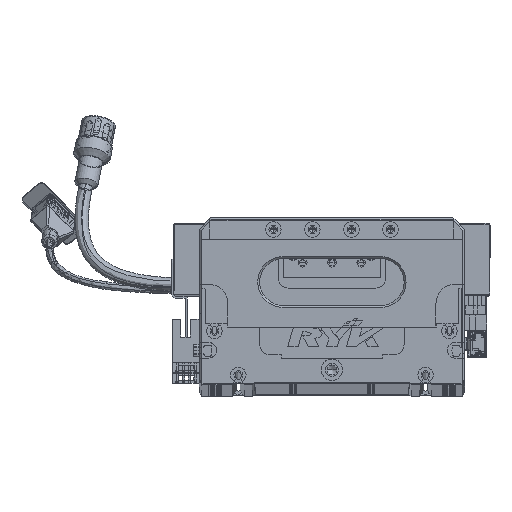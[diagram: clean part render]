
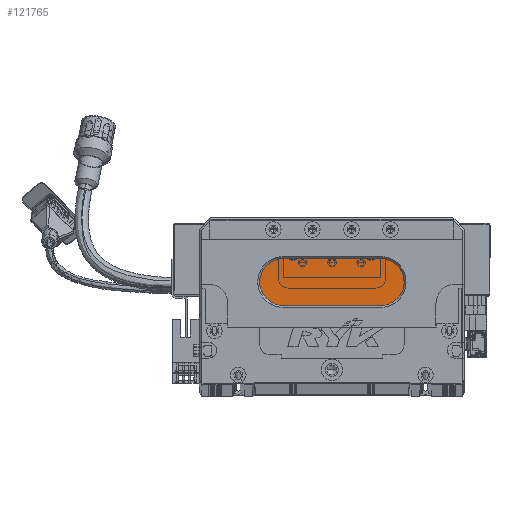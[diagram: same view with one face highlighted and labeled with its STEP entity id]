
A CAD part, top view. The second image highlights one B-rep face of the part: STEP entity #121765.
In plain terms, the highlighted planar face has unit normal (0, 0, 1) as drawn and (0, 0, -1) by its records, which use the part's own axes.
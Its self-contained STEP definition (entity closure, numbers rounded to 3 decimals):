
#5437 = EDGE_CURVE ( 'NONE', #48477, #143530, #41490, .T. ) ;
#10168 = DIRECTION ( 'NONE',  ( -1., 0., 0. ) ) ;
#12950 = DIRECTION ( 'NONE',  ( 1., 0., 0. ) ) ;
#15810 = CARTESIAN_POINT ( 'NONE',  ( 93., 40., 13. ) ) ;
#22997 = DIRECTION ( 'NONE',  ( 0., 0., -1. ) ) ;
#24775 = LINE ( 'NONE', #63449, #81772 ) ;
#26851 = EDGE_CURVE ( 'NONE', #97229, #68523, #83739, .T. ) ;
#31655 = CARTESIAN_POINT ( 'NONE',  ( 93., 64., 13. ) ) ;
#34295 = AXIS2_PLACEMENT_3D ( 'NONE', #94170, #44814, #142574 ) ;
#41490 = CIRCLE ( 'NONE', #103663, 12. ) ;
#44814 = DIRECTION ( 'NONE',  ( 0., 0., -1. ) ) ;
#48477 = VERTEX_POINT ( 'NONE', #31655 ) ;
#51455 = DIRECTION ( 'NONE',  ( -1., 0., 0. ) ) ;
#52300 = EDGE_CURVE ( 'NONE', #68523, #119751, #82109, .T. ) ;
#63449 = CARTESIAN_POINT ( 'NONE',  ( 93., 64., 13. ) ) ;
#66590 = PLANE ( 'NONE',  #34295 ) ;
#68523 = VERTEX_POINT ( 'NONE', #145863 ) ;
#71330 = CARTESIAN_POINT ( 'NONE',  ( 93., 52., 13. ) ) ;
#80284 = CARTESIAN_POINT ( 'NONE',  ( 43., 40., 13. ) ) ;
#81772 = VECTOR ( 'NONE', #12950, 1000. ) ;
#82109 = CIRCLE ( 'NONE', #110231, 12. ) ;
#83739 = CIRCLE ( 'NONE', #135658, 12. ) ;
#88230 = ORIENTED_EDGE ( 'NONE', *, *, #139439, .T. ) ;
#89066 = ORIENTED_EDGE ( 'NONE', *, *, #26851, .T. ) ;
#92179 = LINE ( 'NONE', #15810, #97823 ) ;
#94170 = CARTESIAN_POINT ( 'NONE',  ( 93., 52., 13. ) ) ;
#97229 = VERTEX_POINT ( 'NONE', #80284 ) ;
#97696 = FACE_OUTER_BOUND ( 'NONE', #129895, .T. ) ;
#97823 = VECTOR ( 'NONE', #138582, 1000. ) ;
#103663 = AXIS2_PLACEMENT_3D ( 'NONE', #71330, #109047, #10168 ) ;
#106994 = DIRECTION ( 'NONE',  ( -1., 0., 0. ) ) ;
#109047 = DIRECTION ( 'NONE',  ( 0., 0., -1. ) ) ;
#109452 = ORIENTED_EDGE ( 'NONE', *, *, #5437, .T. ) ;
#110231 = AXIS2_PLACEMENT_3D ( 'NONE', #143652, #22997, #106994 ) ;
#119751 = VERTEX_POINT ( 'NONE', #122710 ) ;
#121765 = ADVANCED_FACE ( 'NONE', ( #97696 ), #66590, .T. ) ;
#122710 = CARTESIAN_POINT ( 'NONE',  ( 43., 64., 13. ) ) ;
#129895 = EDGE_LOOP ( 'NONE', ( #109452, #149058, #89066, #151314, #88230 ) ) ;
#130063 = CARTESIAN_POINT ( 'NONE',  ( 93., 40., 13. ) ) ;
#135658 = AXIS2_PLACEMENT_3D ( 'NONE', #138554, #150300, #51455 ) ;
#138554 = CARTESIAN_POINT ( 'NONE',  ( 43., 52., 13. ) ) ;
#138582 = DIRECTION ( 'NONE',  ( -1., 0., 0. ) ) ;
#139439 = EDGE_CURVE ( 'NONE', #119751, #48477, #24775, .T. ) ;
#142574 = DIRECTION ( 'NONE',  ( -1., 0., 0. ) ) ;
#143321 = EDGE_CURVE ( 'NONE', #143530, #97229, #92179, .T. ) ;
#143530 = VERTEX_POINT ( 'NONE', #130063 ) ;
#143652 = CARTESIAN_POINT ( 'NONE',  ( 43., 52., 13. ) ) ;
#145863 = CARTESIAN_POINT ( 'NONE',  ( 31., 52., 13. ) ) ;
#149058 = ORIENTED_EDGE ( 'NONE', *, *, #143321, .T. ) ;
#150300 = DIRECTION ( 'NONE',  ( 0., 0., -1. ) ) ;
#151314 = ORIENTED_EDGE ( 'NONE', *, *, #52300, .T. ) ;
